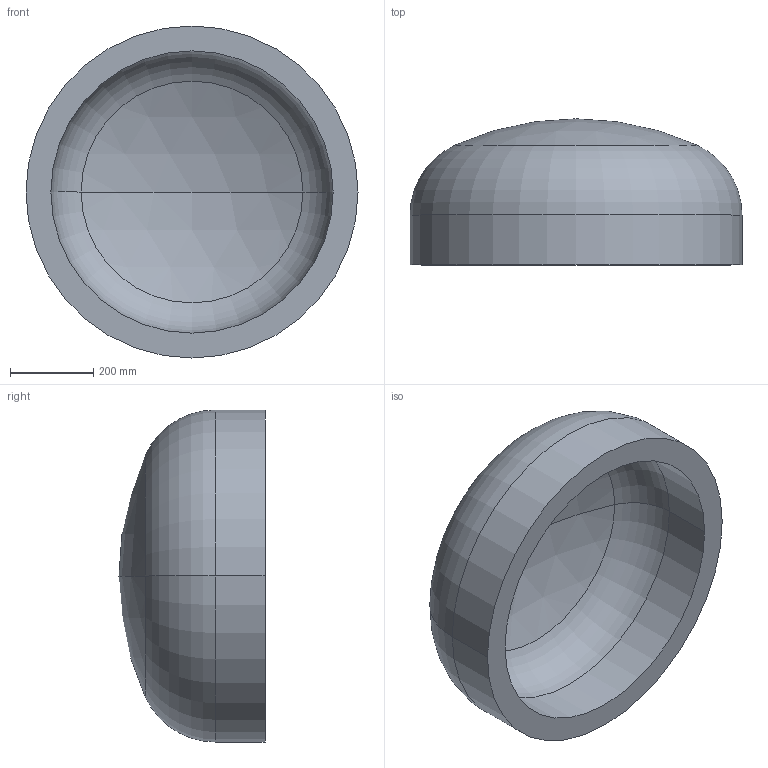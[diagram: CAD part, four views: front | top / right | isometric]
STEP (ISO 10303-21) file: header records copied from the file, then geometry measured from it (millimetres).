
FILE_DESCRIPTION (( 'STEP AP203' ), '1' );
FILE_NAME ('DIN 28013 Korbbogenform_-_Boden DIN 28013 - 800 x 120 - I - s=60.step', '2016-07-01T08:19:24', ( '' ), ( '' ), 'SwSTEP 2.0', 'SolidWorks 2013', '' );
FILE_SCHEMA (( 'CONFIG_CONTROL_DESIGN' ));
Length unit declared in the file: millimetre
Products named in the file (1): DIN 28013 Korbbogenform_-_Boden DIN 28013 - 800 x 120 - I - s=60
Bounding box: 800 x 352.03 x 800 mm (x, y, z)
Volume: 54858232.8 mm3; surface area: 1975634 mm2
Topology: 1 solids, 1 shells, 13 faces, 24 edges, 14 vertices
Faces by surface type: torus 4, cylinder 4, sphere 4, plane 1
Entity records: 407 total; most frequent: DIRECTION 72, CARTESIAN_POINT 52, ORIENTED_EDGE 48, AXIS2_PLACEMENT_3D 34, EDGE_CURVE 24, CIRCLE 20, VERTEX_POINT 14, EDGE_LOOP 14
